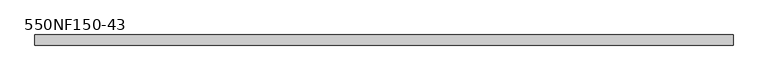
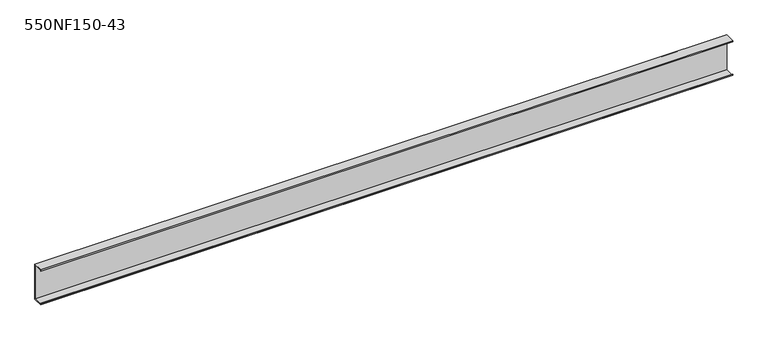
"""IFC4 building model written with IfcOpenShell, lengths in millimetres: beam geometry, BIMSF-SSMA-S : 550NF150-43."""

from ifc_helpers import new_model, si_unit, frame, origin, place, context, project, spatial, polyline, outline, extrude, source, transform, mapped, element, save


def beam_550nf150_43_10f90b38(model_context):
    return source(origin(), model_context, "Body", "SweptSolid", [
        extrude(outline(polyline([(19.05, 69.85), (19.05, -69.85), (-19.05, -69.85), (-19.05, -65.0748), (-17.9003158, -65.0748), (-17.9003158, -68.7003158), (17.9003158, -68.7003158), (17.9003158, 68.7003158), (-17.9003158, 68.7003158), (-17.9003158, 65.0748), (-19.05, 65.0748), (-19.05, 69.85), (19.05, 69.85)])), frame((-1314.053125, 0.0, 0.0), z_axis=(1.0, 0.0, 0.0), x_axis=(0.0, 1.0, 0.0)), (0.0, 0.0, 1.0), 2628.10625),
    ])


if __name__ == "__main__":
    model = new_model("IFC4")
    model_context = context("Model", 3, world=origin())
    ifc_project = project(units=[si_unit("LENGTHUNIT", "METRE", prefix="MILLI")], contexts=[model_context])
    site = spatial("IfcSite", under=ifc_project)
    building = spatial("IfcBuilding", under=site)
    placement = place(None, origin())
    beam_550nf150_43_shape = beam_550nf150_43_10f90b38(model_context)
    element("IfcBeam", 1, ObjectType="BIMSF-SSMA-S : 550NF150-43", at=placement, inside=building, context=model_context, shape_type="MappedRepresentation", body=[
        mapped(beam_550nf150_43_shape, transform((0.0, 0.0, 0.0), x_axis=(1.0, 0.0, 0.0), y_axis=(0.0, 1.0, 0.0), z_axis=(0.0, 0.0, 1.0))),
    ])
    save(model, "model.ifc")
